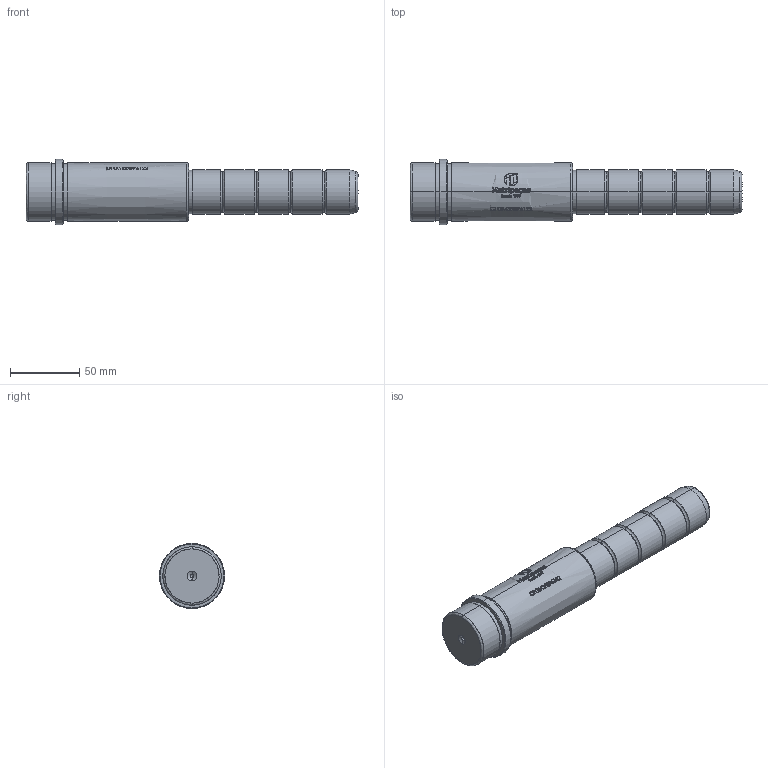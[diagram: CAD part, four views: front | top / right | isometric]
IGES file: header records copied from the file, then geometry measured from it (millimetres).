
Start section: SolidWorks IGES file using analytic representation for surfaces
Global section: file name: E:\1.TRIVECTOR\Clientes\MATRIPEÇAS\PEÇAS_CATALOGO_SITE\5.CFGM - COLUNA PLACA FLUTUANTE GUIADA E31 (CATÁLOGO)\CFGM32096122.IGS; native system: SolidWorks 2024; preprocessor: SolidWorks 2024; author: Gabriel Techio; date: 260904.141440; units: millimetre
Bounding box: 239 x 47 x 47 mm (x, y, z)
Surface area: 31857.8 mm2 (no closed solid volume)
Topology: 0 solids, 0 shells, 547 faces, 6270 edges, 6266 vertices
Faces by surface type: bspline 433, revolution 114
